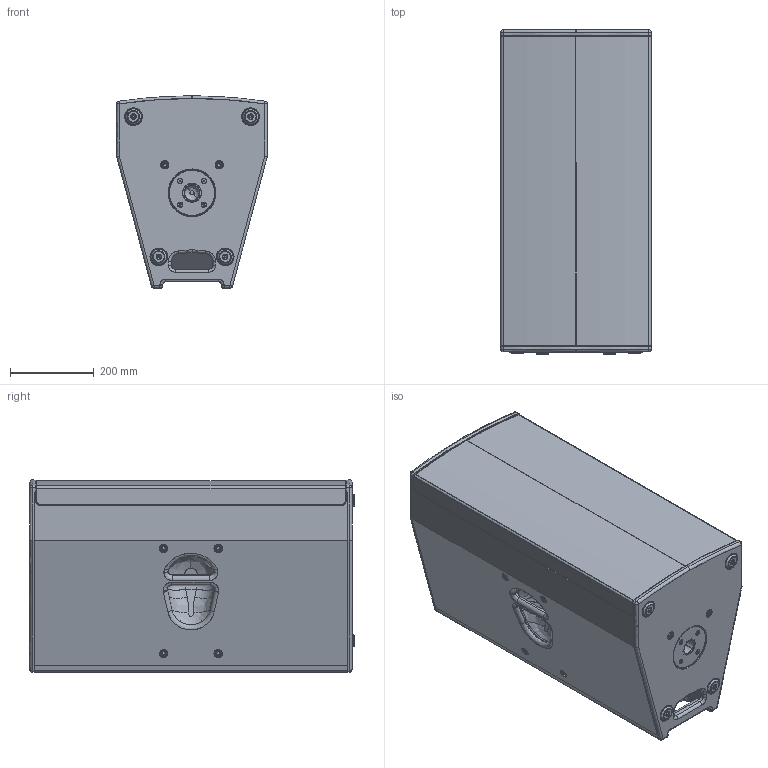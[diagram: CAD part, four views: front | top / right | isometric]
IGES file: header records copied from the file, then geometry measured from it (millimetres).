
Start section: SolidWorks IGES file using analytic representation for surfaces
Global section: file name: D:\Entwicklungen\Projekte fertig.ung\K-Serie\3D Daten Homepage\SEEBURG_K30.IGS; native system: SolidWorks 2023; preprocessor: SolidWorks 2023; author: Alex; date: 260625.124220; units: millimetre
Bounding box: 360 x 775 x 460 mm (x, y, z)
Surface area: 3373982.9 mm2 (no closed solid volume)
Topology: 0 solids, 0 shells, 1446 faces, 17228 edges, 17200 vertices
Faces by surface type: revolution 941, bspline 505
